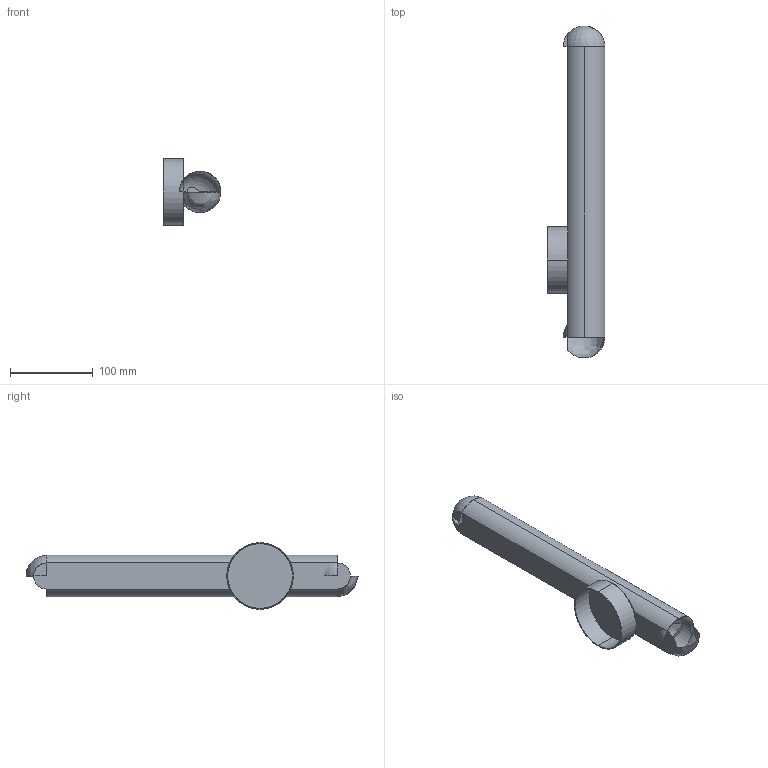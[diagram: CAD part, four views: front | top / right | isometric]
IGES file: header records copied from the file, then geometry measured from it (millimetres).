
Start section: SolidWorks IGES file using analytic representation for surfaces
Global section: file name: F:\燠隴矨\3D\2026-4\Alunari Alabaster Wall Sconce-H40cm.IGS,15; native system: HSolidWorks 2022; preprocessor: SolidWorks 2022; author: MyPC; date: 260407.185134; units: millimetre
Bounding box: 69.51 x 400 x 80 mm (x, y, z)
Surface area: 86272.7 mm2 (no closed solid volume)
Topology: 0 solids, 0 shells, 15 faces, 414 edges, 411 vertices
Faces by surface type: revolution 11, bspline 4
